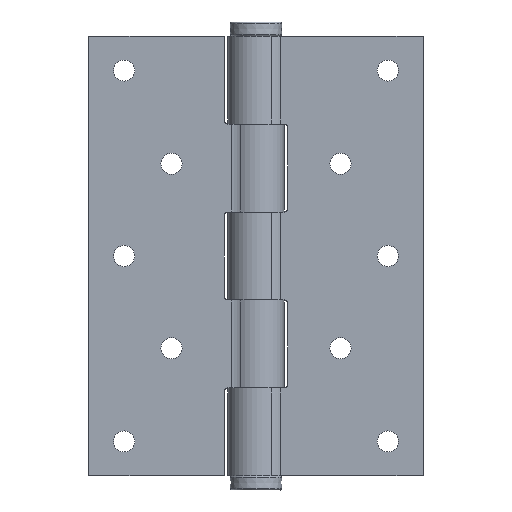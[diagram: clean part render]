
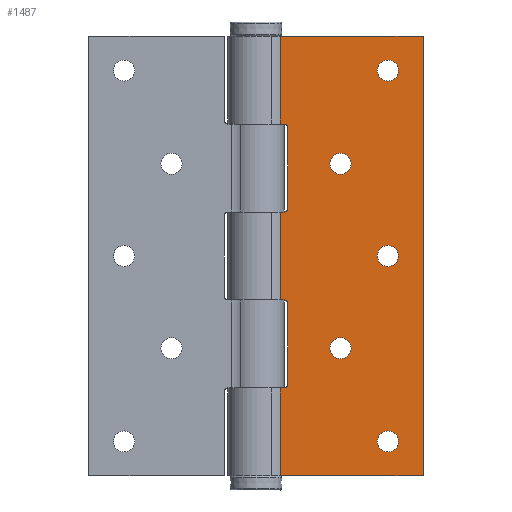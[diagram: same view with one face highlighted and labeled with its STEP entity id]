
A CAD part, front view. The second image highlights one B-rep face of the part: STEP entity #1487.
In plain terms, the highlighted planar face has unit normal (0, -1, 0).
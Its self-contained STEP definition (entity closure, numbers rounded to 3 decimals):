
#57=PLANE('',#1665);
#117=LINE('',#2412,#217);
#121=LINE('',#2432,#221);
#126=LINE('',#2455,#226);
#129=LINE('',#2466,#229);
#131=LINE('',#2470,#231);
#134=LINE('',#2484,#234);
#154=LINE('',#2539,#254);
#155=LINE('',#2542,#255);
#156=LINE('',#2546,#256);
#159=LINE('',#2554,#259);
#161=LINE('',#2560,#261);
#162=LINE('',#2561,#262);
#217=VECTOR('',#1958,23.);
#221=VECTOR('',#1978,1.072);
#226=VECTOR('',#1999,1.072);
#229=VECTOR('',#2010,23.);
#231=VECTOR('',#2014,1.072);
#234=VECTOR('',#2027,1.072);
#254=VECTOR('',#2085,25.);
#255=VECTOR('',#2090,25.);
#256=VECTOR('',#2095,25.);
#259=VECTOR('',#2104,40.572);
#261=VECTOR('',#2110,125.);
#262=VECTOR('',#2111,40.572);
#339=FACE_BOUND('',#547,.T.);
#340=FACE_BOUND('',#548,.T.);
#341=FACE_BOUND('',#549,.T.);
#342=FACE_BOUND('',#550,.T.);
#343=FACE_BOUND('',#551,.T.);
#424=FACE_OUTER_BOUND('',#546,.T.);
#546=EDGE_LOOP('',(#1343,#1344,#1345,#1346,#1347,#1348,#1349,#1350,#1351,
#1352,#1353,#1354,#1355,#1356,#1357,#1358));
#547=EDGE_LOOP('',(#1359));
#548=EDGE_LOOP('',(#1360));
#549=EDGE_LOOP('',(#1361));
#550=EDGE_LOOP('',(#1362));
#551=EDGE_LOOP('',(#1363));
#617=CIRCLE('',#1587,3.);
#620=CIRCLE('',#1592,3.);
#623=CIRCLE('',#1597,3.);
#626=CIRCLE('',#1602,3.);
#629=CIRCLE('',#1607,3.);
#631=CIRCLE('',#1610,1.);
#633=CIRCLE('',#1614,1.);
#639=CIRCLE('',#1622,1.);
#645=CIRCLE('',#1630,1.);
#737=VERTEX_POINT('',#2364);
#740=VERTEX_POINT('',#2372);
#743=VERTEX_POINT('',#2380);
#746=VERTEX_POINT('',#2388);
#749=VERTEX_POINT('',#2396);
#752=VERTEX_POINT('',#2402);
#753=VERTEX_POINT('',#2404);
#755=VERTEX_POINT('',#2410);
#757=VERTEX_POINT('',#2416);
#763=VERTEX_POINT('',#2430);
#766=VERTEX_POINT('',#2437);
#767=VERTEX_POINT('',#2439);
#773=VERTEX_POINT('',#2453);
#776=VERTEX_POINT('',#2460);
#777=VERTEX_POINT('',#2462);
#778=VERTEX_POINT('',#2469);
#784=VERTEX_POINT('',#2483);
#800=VERTEX_POINT('',#2538);
#801=VERTEX_POINT('',#2544);
#803=VERTEX_POINT('',#2552);
#805=VERTEX_POINT('',#2559);
#905=EDGE_CURVE('',#737,#737,#617,.T.);
#908=EDGE_CURVE('',#740,#740,#620,.T.);
#911=EDGE_CURVE('',#743,#743,#623,.T.);
#914=EDGE_CURVE('',#746,#746,#626,.T.);
#917=EDGE_CURVE('',#749,#749,#629,.T.);
#920=EDGE_CURVE('',#752,#753,#631,.T.);
#924=EDGE_CURVE('',#752,#755,#117,.T.);
#927=EDGE_CURVE('',#757,#755,#633,.T.);
#934=EDGE_CURVE('',#757,#763,#121,.T.);
#937=EDGE_CURVE('',#766,#767,#639,.T.);
#945=EDGE_CURVE('',#766,#773,#126,.T.);
#948=EDGE_CURVE('',#776,#777,#645,.T.);
#950=EDGE_CURVE('',#776,#767,#129,.T.);
#952=EDGE_CURVE('',#778,#777,#131,.T.);
#959=EDGE_CURVE('',#784,#753,#134,.T.);
#987=EDGE_CURVE('',#784,#800,#154,.T.);
#989=EDGE_CURVE('',#778,#763,#155,.T.);
#991=EDGE_CURVE('',#801,#773,#156,.T.);
#995=EDGE_CURVE('',#803,#801,#159,.T.);
#998=EDGE_CURVE('',#805,#803,#161,.T.);
#999=EDGE_CURVE('',#805,#800,#162,.T.);
#1343=ORIENTED_EDGE('',*,*,#945,.T.);
#1344=ORIENTED_EDGE('',*,*,#991,.F.);
#1345=ORIENTED_EDGE('',*,*,#995,.F.);
#1346=ORIENTED_EDGE('',*,*,#998,.F.);
#1347=ORIENTED_EDGE('',*,*,#999,.T.);
#1348=ORIENTED_EDGE('',*,*,#987,.F.);
#1349=ORIENTED_EDGE('',*,*,#959,.T.);
#1350=ORIENTED_EDGE('',*,*,#920,.F.);
#1351=ORIENTED_EDGE('',*,*,#924,.T.);
#1352=ORIENTED_EDGE('',*,*,#927,.F.);
#1353=ORIENTED_EDGE('',*,*,#934,.T.);
#1354=ORIENTED_EDGE('',*,*,#989,.F.);
#1355=ORIENTED_EDGE('',*,*,#952,.T.);
#1356=ORIENTED_EDGE('',*,*,#948,.F.);
#1357=ORIENTED_EDGE('',*,*,#950,.T.);
#1358=ORIENTED_EDGE('',*,*,#937,.F.);
#1359=ORIENTED_EDGE('',*,*,#905,.T.);
#1360=ORIENTED_EDGE('',*,*,#908,.T.);
#1361=ORIENTED_EDGE('',*,*,#911,.T.);
#1362=ORIENTED_EDGE('',*,*,#914,.T.);
#1363=ORIENTED_EDGE('',*,*,#917,.T.);
#1487=ADVANCED_FACE('',(#424,#339,#340,#341,#342,#343),#57,.T.);
#1587=AXIS2_PLACEMENT_3D('',#2365,#1904,#1905);
#1592=AXIS2_PLACEMENT_3D('',#2373,#1914,#1915);
#1597=AXIS2_PLACEMENT_3D('',#2381,#1924,#1925);
#1602=AXIS2_PLACEMENT_3D('',#2389,#1934,#1935);
#1607=AXIS2_PLACEMENT_3D('',#2397,#1944,#1945);
#1610=AXIS2_PLACEMENT_3D('',#2405,#1951,#1952);
#1614=AXIS2_PLACEMENT_3D('',#2418,#1964,#1965);
#1622=AXIS2_PLACEMENT_3D('',#2440,#1984,#1985);
#1630=AXIS2_PLACEMENT_3D('',#2463,#2005,#2006);
#1665=AXIS2_PLACEMENT_3D('',#2558,#2108,#2109);
#1904=DIRECTION('center_axis',(0.,1.,0.));
#1905=DIRECTION('ref_axis',(1.,0.,0.));
#1914=DIRECTION('center_axis',(0.,1.,0.));
#1915=DIRECTION('ref_axis',(1.,0.,0.));
#1924=DIRECTION('center_axis',(0.,1.,0.));
#1925=DIRECTION('ref_axis',(1.,0.,0.));
#1934=DIRECTION('center_axis',(0.,1.,0.));
#1935=DIRECTION('ref_axis',(1.,0.,0.));
#1944=DIRECTION('center_axis',(0.,1.,0.));
#1945=DIRECTION('ref_axis',(1.,0.,0.));
#1951=DIRECTION('center_axis',(0.,-1.,0.));
#1952=DIRECTION('ref_axis',(-0.707,0.,-0.707));
#1958=DIRECTION('',(0.,0.,1.));
#1964=DIRECTION('center_axis',(0.,-1.,0.));
#1965=DIRECTION('ref_axis',(-0.707,0.,0.707));
#1978=DIRECTION('',(1.,0.,0.));
#1984=DIRECTION('center_axis',(0.,-1.,0.));
#1985=DIRECTION('ref_axis',(-0.707,0.,0.707));
#1999=DIRECTION('',(1.,0.,0.));
#2005=DIRECTION('center_axis',(0.,-1.,0.));
#2006=DIRECTION('ref_axis',(-0.707,0.,-0.707));
#2010=DIRECTION('',(0.,0.,1.));
#2014=DIRECTION('',(-1.,0.,0.));
#2027=DIRECTION('',(-1.,0.,0.));
#2085=DIRECTION('',(0.,0.,-1.));
#2090=DIRECTION('',(0.,0.,-1.));
#2095=DIRECTION('',(0.,0.,-1.));
#2104=DIRECTION('',(1.,0.,0.));
#2108=DIRECTION('center_axis',(0.,-1.,0.));
#2109=DIRECTION('ref_axis',(1.,0.,0.));
#2110=DIRECTION('',(0.,0.,1.));
#2111=DIRECTION('',(1.,0.,0.));
#2364=CARTESIAN_POINT('',(-27.,-6.,36.3));
#2365=CARTESIAN_POINT('Origin',(-24.,-6.,36.3));
#2372=CARTESIAN_POINT('',(-40.5,-6.,62.5));
#2373=CARTESIAN_POINT('Origin',(-37.5,-6.,62.5));
#2380=CARTESIAN_POINT('',(-40.5,-6.,115.2));
#2381=CARTESIAN_POINT('Origin',(-37.5,-6.,115.2));
#2388=CARTESIAN_POINT('',(-40.5,-6.,9.8));
#2389=CARTESIAN_POINT('Origin',(-37.5,-6.,9.8));
#2396=CARTESIAN_POINT('',(-27.,-6.,88.7));
#2397=CARTESIAN_POINT('Origin',(-24.,-6.,88.7));
#2402=CARTESIAN_POINT('',(-9.,-6.,26.));
#2404=CARTESIAN_POINT('',(-8.,-6.,25.));
#2405=CARTESIAN_POINT('Origin',(-8.,-6.,26.));
#2410=CARTESIAN_POINT('',(-9.,-6.,49.));
#2412=CARTESIAN_POINT('',(-9.,-6.,25.));
#2416=CARTESIAN_POINT('',(-8.,-6.,50.));
#2418=CARTESIAN_POINT('Origin',(-8.,-6.,49.));
#2430=CARTESIAN_POINT('',(-6.928,-6.,50.));
#2432=CARTESIAN_POINT('',(-19.75,-6.,50.));
#2437=CARTESIAN_POINT('',(-8.,-6.,100.));
#2439=CARTESIAN_POINT('',(-9.,-6.,99.));
#2440=CARTESIAN_POINT('Origin',(-8.,-6.,99.));
#2453=CARTESIAN_POINT('',(-6.928,-6.,100.));
#2455=CARTESIAN_POINT('',(-19.75,-6.,100.));
#2460=CARTESIAN_POINT('',(-9.,-6.,76.));
#2462=CARTESIAN_POINT('',(-8.,-6.,75.));
#2463=CARTESIAN_POINT('Origin',(-8.,-6.,76.));
#2466=CARTESIAN_POINT('',(-9.,-6.,50.));
#2469=CARTESIAN_POINT('',(-6.928,-6.,75.));
#2470=CARTESIAN_POINT('',(-28.25,-6.,75.));
#2483=CARTESIAN_POINT('',(-6.928,-6.,25.));
#2484=CARTESIAN_POINT('',(-28.25,-6.,25.));
#2538=CARTESIAN_POINT('',(-6.928,-6.,0.));
#2539=CARTESIAN_POINT('',(-6.928,-6.,0.));
#2542=CARTESIAN_POINT('',(-6.928,-6.,0.));
#2544=CARTESIAN_POINT('',(-6.928,-6.,125.));
#2546=CARTESIAN_POINT('',(-6.928,-6.,0.));
#2552=CARTESIAN_POINT('',(-47.5,-6.,125.));
#2554=CARTESIAN_POINT('',(-47.5,-6.,125.));
#2558=CARTESIAN_POINT('Origin',(-47.5,-6.,0.));
#2559=CARTESIAN_POINT('',(-47.5,-6.,0.));
#2560=CARTESIAN_POINT('',(-47.5,-6.,0.));
#2561=CARTESIAN_POINT('',(-47.5,-6.,0.));
